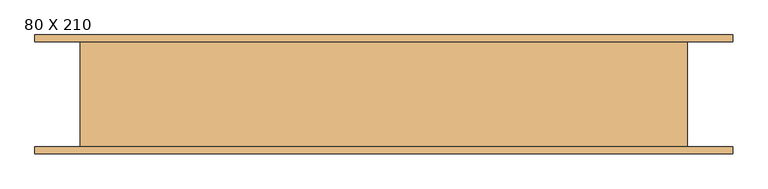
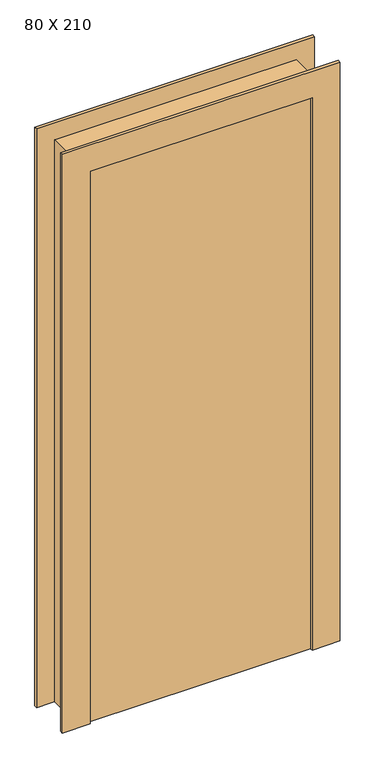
"""IFC4 building model written with IfcOpenShell, lengths in millimetres: door geometry, PORTA DE ABRIR DUPLA COM SENTIDOS OPOSTOS- 2 FOLHAS : 80 X 210."""

from ifc_helpers import new_model, si_unit, frame, origin, origin_with_axes, place, context, project, spatial, polyline, outline, extrude, faceted_brep, source, transform, mapped, element, save


def door_80_x_210_25f8f10c(model_context):
    return source(origin(), model_context, "Body", "SolidModel", [
        extrude(outline(polyline([(-320.0, 75.0), (480.0, 75.0), (480.0, 35.0), (-320.0, 35.0), (-320.0, 75.0)])), origin_with_axes(), (0.0, 0.0, 1.0), 2100.0),
        extrude(outline(polyline([(480.0, -75.0), (-320.0, -75.0), (-320.0, -35.0), (480.0, -35.0), (480.0, -75.0)])), origin_with_axes(), (0.0, 0.0, 1.0), 2100.0),
        extrude(outline(polyline([(2100.0, 480.0), (0.0, 480.0), (0.0, 580.0), (2200.0, 580.0), (2200.0, -420.0), (0.0, -420.0), (0.0, -320.0), (2100.0, -320.0), (2100.0, 480.0)])), frame((0.0, 75.0, 0.0), z_axis=(0.0, 1.0, 0.0), x_axis=(0.0, 0.0, 1.0)), (0.0, 0.0, 1.0), 10.0),
        extrude(outline(polyline([(2100.0, -320.0), (2100.0, 480.0), (0.0, 480.0), (0.0, 580.0), (2200.0, 580.0), (2200.0, -420.0), (0.0, -420.0), (0.0, -320.0), (2100.0, -320.0)])), frame((0.0, -85.0, 0.0), z_axis=(0.0, 1.0, 0.0), x_axis=(0.0, 0.0, 1.0)), (0.0, 0.0, 1.0), 10.0),
        faceted_brep([(-355.0, 75.0, 0.0), (-320.0, 75.0, 0.0), (-320.0, 35.0, 0.0), (-310.0, 35.0, 0.0), (-310.0, -35.0, 0.0), (-320.0, -35.0, 0.0), (-320.0, -75.0, 0.0), (-355.0, -75.0, 0.0), (-355.0, 75.0, 2135.0), (515.0, 75.0, 2135.0), (515.0, 75.0, 0.0), (480.0, 75.0, 0.0), (480.0, 75.0, 2100.0), (-320.0, 75.0, 2100.0), (-320.0, 35.0, 2100.0), (480.0, 35.0, 2100.0), (480.0, 35.0, 0.0), (470.0, 35.0, 0.0), (470.0, 35.0, 2090.0), (-310.0, 35.0, 2090.0), (-310.0, -35.0, 2090.0), (470.0, -35.0, 2090.0), (470.0, -35.0, 0.0), (480.0, -35.0, 0.0), (480.0, -35.0, 2100.0), (-320.0, -35.0, 2100.0), (-320.0, -75.0, 2100.0), (480.0, -75.0, 2100.0), (480.0, -75.0, 0.0), (515.0, -75.0, 0.0), (515.0, -75.0, 2135.0), (-355.0, -75.0, 2135.0)], [[[0, 1, 2, 3, 4, 5, 6, 7]], [[1, 0, 8, 9, 10, 11, 12, 13]], [[2, 1, 13, 14]], [[3, 2, 14, 15, 16, 17, 18, 19]], [[4, 3, 19, 20]], [[5, 4, 20, 21, 22, 23, 24, 25]], [[6, 5, 25, 26]], [[7, 6, 26, 27, 28, 29, 30, 31]], [[0, 7, 31, 8]], [[9, 30, 29, 10]], [[10, 29, 28, 23, 22, 17, 16, 11]], [[15, 12, 11, 16]], [[21, 18, 17, 22]], [[27, 24, 23, 28]], [[14, 13, 12, 15]], [[20, 19, 18, 21]], [[26, 25, 24, 27]], [[8, 31, 30, 9]]]),
    ])


if __name__ == "__main__":
    model = new_model("IFC4")
    model_context = context("Model", 3, world=origin())
    ifc_project = project(units=[si_unit("LENGTHUNIT", "METRE", prefix="MILLI")], contexts=[model_context])
    site = spatial("IfcSite", under=ifc_project)
    building = spatial("IfcBuilding", under=site)
    placement = place(None, origin())
    door_80_x_210_shape = door_80_x_210_25f8f10c(model_context)
    element("IfcDoor", 1, ObjectType="PORTA DE ABRIR DUPLA COM SENTIDOS OPOSTOS- 2 FOLHAS : 80 X 210", at=placement, inside=building, context=model_context, shape_type="MappedRepresentation", body=[
        mapped(door_80_x_210_shape, transform((0.0, 0.0, 0.0), x_axis=(1.0, 0.0, 0.0), y_axis=(0.0, 1.0, 0.0), z_axis=(0.0, 0.0, 1.0))),
    ])
    save(model, "model.ifc")
